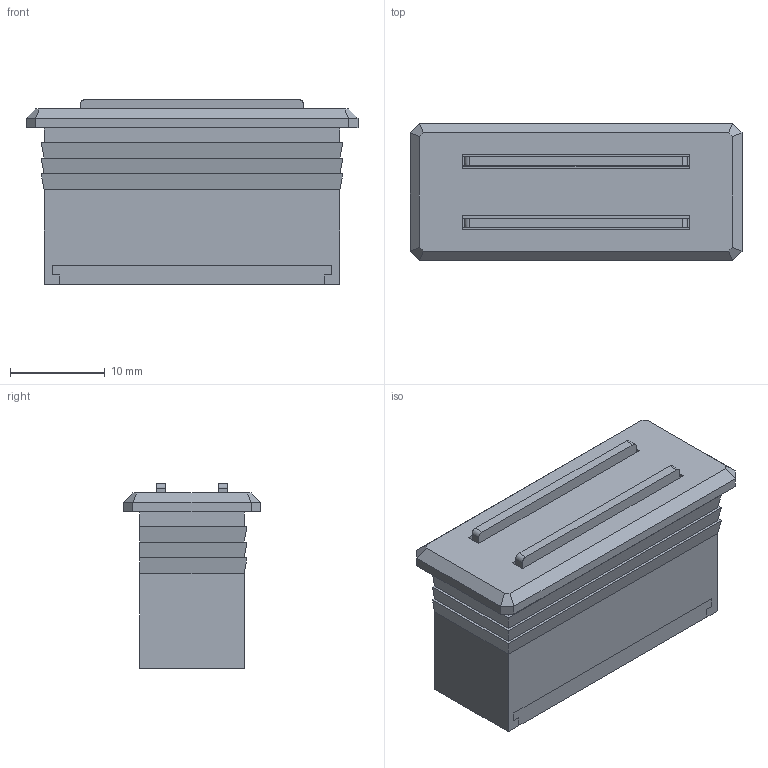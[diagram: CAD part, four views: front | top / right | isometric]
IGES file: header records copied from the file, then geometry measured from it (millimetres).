
Global section: file name: DR_B-M110-312; native system: Autodesk Inventor 2015; preprocessor: unknown; author: Administrator; date: 20170908.101645; units: millimetre
Bounding box: 35 x 14.5 x 19.5 mm (x, y, z)
Volume: 5763.8 mm3; surface area: 7418.5 mm2
Topology: 5 solids, 5 shells, 123 faces, 319 edges, 208 vertices
Faces by surface type: bspline 123
